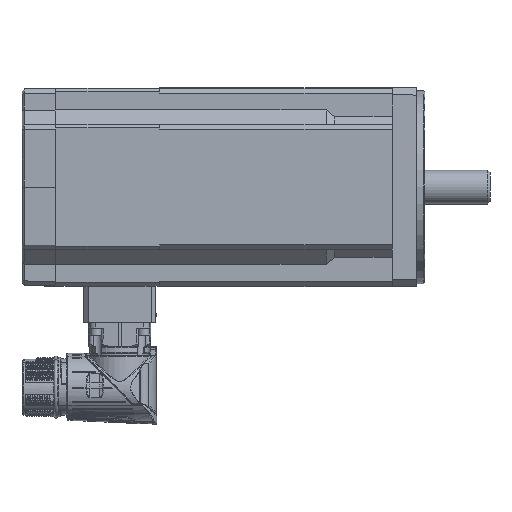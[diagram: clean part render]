
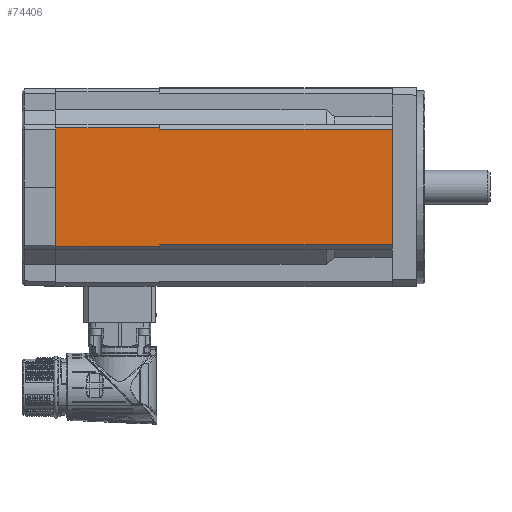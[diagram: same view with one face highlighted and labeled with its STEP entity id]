
A CAD part, top view. The second image highlights one B-rep face of the part: STEP entity #74406.
In plain terms, the highlighted planar face has unit normal (0, 0, 1).
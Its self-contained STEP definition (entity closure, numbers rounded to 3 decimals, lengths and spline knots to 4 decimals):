
#15655=FACE_OUTER_BOUND('',#20432,.T.);
#20432=EDGE_LOOP('',(#63796,#63797,#63798,#63799,#63800,#63801,#63802,#63803,
#63804,#63805));
#23509=LINE('',#254843,#26418);
#23515=LINE('',#254855,#26424);
#23576=LINE('',#257492,#26485);
#23580=LINE('',#257499,#26489);
#23607=LINE('',#257627,#26516);
#23626=LINE('',#257687,#26535);
#23627=LINE('',#257690,#26536);
#23628=LINE('',#257692,#26537);
#23629=LINE('',#257693,#26538);
#23630=LINE('',#257694,#26539);
#26418=VECTOR('',#99699,0.0394);
#26424=VECTOR('',#99707,0.0394);
#26485=VECTOR('',#100256,0.0394);
#26489=VECTOR('',#100262,0.0394);
#26516=VECTOR('',#100395,0.3937);
#26535=VECTOR('',#100458,0.3937);
#26536=VECTOR('',#100461,0.0394);
#26537=VECTOR('',#100462,0.0394);
#26538=VECTOR('',#100463,0.0394);
#26539=VECTOR('',#100464,0.3937);
#32781=VERTEX_POINT('',#254839);
#32783=VERTEX_POINT('',#254842);
#32786=VERTEX_POINT('',#254849);
#32788=VERTEX_POINT('',#254853);
#32976=VERTEX_POINT('',#257490);
#32977=VERTEX_POINT('',#257495);
#33025=VERTEX_POINT('',#257624);
#33026=VERTEX_POINT('',#257626);
#33046=VERTEX_POINT('',#257689);
#33047=VERTEX_POINT('',#257691);
#43005=EDGE_CURVE('',#32781,#32783,#23509,.T.);
#43011=EDGE_CURVE('',#32788,#32786,#23515,.T.);
#43314=EDGE_CURVE('',#32788,#32976,#23576,.T.);
#43318=EDGE_CURVE('',#32783,#32977,#23580,.T.);
#43371=EDGE_CURVE('',#33026,#33025,#23607,.T.);
#43398=EDGE_CURVE('',#32786,#33025,#23626,.T.);
#43399=EDGE_CURVE('',#32976,#33046,#23627,.T.);
#43400=EDGE_CURVE('',#33046,#33047,#23628,.T.);
#43401=EDGE_CURVE('',#33047,#32977,#23629,.T.);
#43402=EDGE_CURVE('',#33026,#32781,#23630,.T.);
#63796=ORIENTED_EDGE('',*,*,#43398,.F.);
#63797=ORIENTED_EDGE('',*,*,#43011,.F.);
#63798=ORIENTED_EDGE('',*,*,#43314,.T.);
#63799=ORIENTED_EDGE('',*,*,#43399,.T.);
#63800=ORIENTED_EDGE('',*,*,#43400,.T.);
#63801=ORIENTED_EDGE('',*,*,#43401,.T.);
#63802=ORIENTED_EDGE('',*,*,#43318,.F.);
#63803=ORIENTED_EDGE('',*,*,#43005,.F.);
#63804=ORIENTED_EDGE('',*,*,#43402,.F.);
#63805=ORIENTED_EDGE('',*,*,#43371,.T.);
#65883=PLANE('',#82280);
#74406=ADVANCED_FACE('',(#15655),#65883,.T.);
#82280=AXIS2_PLACEMENT_3D('',#257688,#100459,#100460);
#99699=DIRECTION('',(0.,-1.,0.));
#99707=DIRECTION('',(0.,-1.,0.));
#100256=DIRECTION('',(-1.,0.,0.));
#100262=DIRECTION('',(-1.,0.,0.));
#100395=DIRECTION('',(0.,1.,0.));
#100458=DIRECTION('',(1.,0.,0.));
#100459=DIRECTION('center_axis',(0.,0.,
1.));
#100460=DIRECTION('ref_axis',(1.,0.,0.));
#100461=DIRECTION('',(0.,-1.,0.));
#100462=DIRECTION('',(0.,-1.,0.));
#100463=DIRECTION('',(0.,-1.,0.));
#100464=DIRECTION('',(-1.,0.,0.));
#254839=CARTESIAN_POINT('',(5.687,3.1651,2.7463));
#254842=CARTESIAN_POINT('',(5.687,3.1454,2.7463));
#254843=CARTESIAN_POINT('',(5.687,5.0745,2.7463));
#254849=CARTESIAN_POINT('',(5.687,5.0548,2.7463));
#254853=CARTESIAN_POINT('',(5.687,5.0745,2.7463));
#254855=CARTESIAN_POINT('',(5.687,5.0745,2.7463));
#257490=CARTESIAN_POINT('',(3.9941,5.0745,2.7463));
#257492=CARTESIAN_POINT('',(5.687,5.0745,2.7463));
#257495=CARTESIAN_POINT('',(3.9941,3.1454,2.7463));
#257499=CARTESIAN_POINT('',(5.687,3.1454,2.7463));
#257624=CARTESIAN_POINT('',(9.4862,5.0548,2.7463));
#257626=CARTESIAN_POINT('',(9.4862,3.1651,2.7463));
#257627=CARTESIAN_POINT('',(9.4862,3.0863,2.7463));
#257687=CARTESIAN_POINT('',(5.6279,5.0548,2.7463));
#257688=CARTESIAN_POINT('Origin',(5.6279,3.0863,2.7463));
#257689=CARTESIAN_POINT('',(3.9941,5.0546,2.7463));
#257690=CARTESIAN_POINT('',(3.9941,5.0745,2.7463));
#257691=CARTESIAN_POINT('',(3.9941,3.1654,2.7463));
#257692=CARTESIAN_POINT('',(3.9941,5.0745,2.7463));
#257693=CARTESIAN_POINT('',(3.9941,5.0745,2.7463));
#257694=CARTESIAN_POINT('',(5.6279,3.1651,2.7463));
